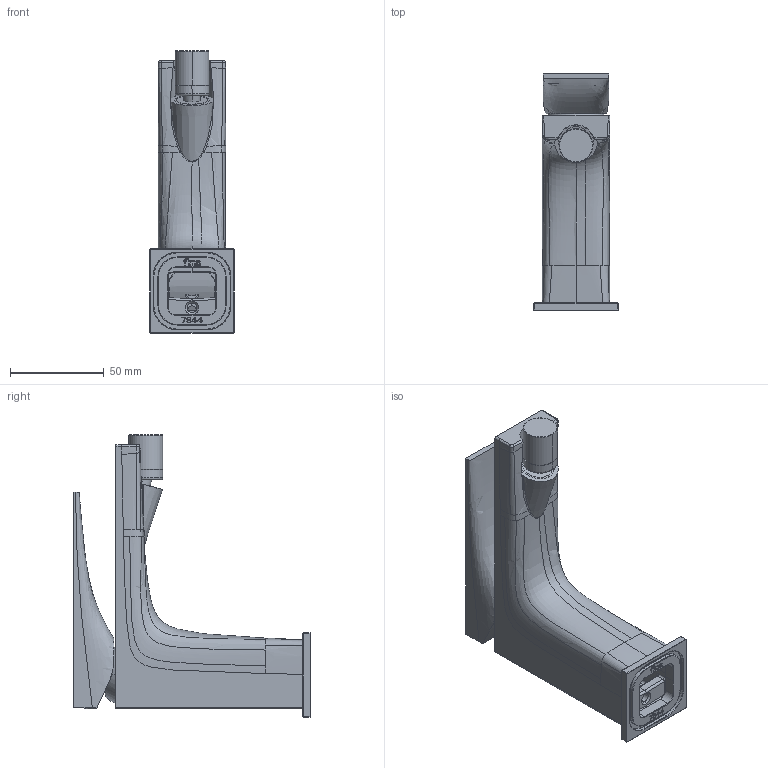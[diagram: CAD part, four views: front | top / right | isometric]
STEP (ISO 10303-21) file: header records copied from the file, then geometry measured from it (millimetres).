
FILE_DESCRIPTION((''),'2;1');
FILE_NAME('F3962','2012-10-08T',('ivanv'),(''),'PRO/ENGINEER BY PARAMETRIC TECHNOLOGY CORPORATION, 2011370','PRO/ENGINEER BY PARAMETRIC TECHNOLOGY CORPORATION, 2011370','');
FILE_SCHEMA(('CONFIG_CONTROL_DESIGN'));
Products named in the file (1): F3962
Bounding box: 45 x 126.5 x 150.74 mm (x, y, z)
Volume: 145958.9 mm3; surface area: 63327.5 mm2
Topology: 1 solids, 1 shells, 909 faces, 2317 edges, 1416 vertices
Faces by surface type: plane 358, bspline 216, cylinder 213, torus 61, sphere 30, cone 16, extrusion 15
Entity records: 58655 total; most frequent: CARTESIAN_POINT 38648, ORIENTED_EDGE 4586, DIRECTION 3425, EDGE_CURVE 2293, VERTEX_POINT 1416, AXIS2_PLACEMENT_3D 1143, VECTOR 1139, LINE 1124
